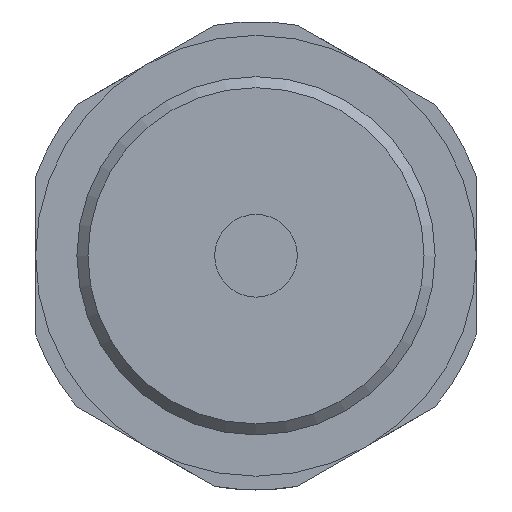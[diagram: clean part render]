
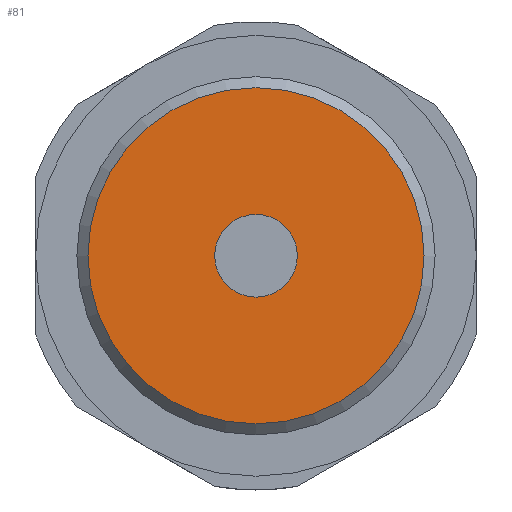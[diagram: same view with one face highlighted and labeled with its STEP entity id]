
A CAD part, front view. The second image highlights one B-rep face of the part: STEP entity #81.
In plain terms, the highlighted planar face has unit normal (0, -1, 0).
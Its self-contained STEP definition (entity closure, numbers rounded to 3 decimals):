
#81 = ADVANCED_FACE( '', ( #122, #123 ), #124, .F. );
#122 = FACE_BOUND( '', #207, .T. );
#123 = FACE_OUTER_BOUND( '', #208, .T. );
#124 = PLANE( '', #209 );
#207 = EDGE_LOOP( '', ( #316 ) );
#208 = EDGE_LOOP( '', ( #317 ) );
#209 = AXIS2_PLACEMENT_3D( '', #318, #319, #320 );
#316 = ORIENTED_EDGE( '', *, *, #504, .F. );
#317 = ORIENTED_EDGE( '', *, *, #506, .T. );
#318 = CARTESIAN_POINT( '', ( 12.2, -8., 0. ) );
#319 = DIRECTION( '', ( 0., 1., 0. ) );
#320 = DIRECTION( '', ( 0., 0., 1. ) );
#504 = EDGE_CURVE( '', #575, #575, #576, .T. );
#506 = EDGE_CURVE( '', #579, #579, #580, .T. );
#575 = VERTEX_POINT( '', #702 );
#576 = CIRCLE( '', #703, 3. );
#579 = VERTEX_POINT( '', #706 );
#580 = CIRCLE( '', #707, 12.2 );
#702 = CARTESIAN_POINT( '', ( 0., -8., -3. ) );
#703 = AXIS2_PLACEMENT_3D( '', #795, #796, #797 );
#706 = CARTESIAN_POINT( '', ( 0., -8., -12.2 ) );
#707 = AXIS2_PLACEMENT_3D( '', #801, #802, #803 );
#795 = CARTESIAN_POINT( '', ( 0., -8., 0. ) );
#796 = DIRECTION( '', ( 0., -1., 0. ) );
#797 = DIRECTION( '', ( 0., 0., -1. ) );
#801 = CARTESIAN_POINT( '', ( 0., -8., 0. ) );
#802 = DIRECTION( '', ( 0., -1., 0. ) );
#803 = DIRECTION( '', ( 0., 0., -1. ) );
